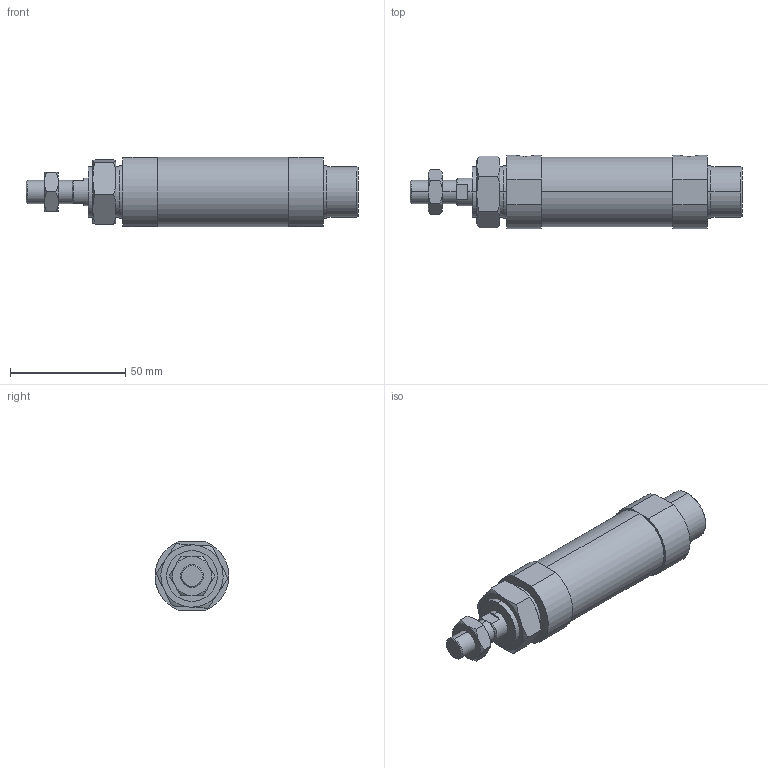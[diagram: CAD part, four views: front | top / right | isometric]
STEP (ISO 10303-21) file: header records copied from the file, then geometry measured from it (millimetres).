
FILE_DESCRIPTION (( 'STEP AP203' ), '1' );
FILE_NAME ('J#2-25-25-N.STEP', '2016-03-08T07:09:56', ( '' ), ( '' ), 'SwSTEP 2.0', 'SolidWorks 2014', '' );
FILE_SCHEMA (( 'CONFIG_CONTROL_DESIGN' ));
Length unit declared in the file: millimetre
Products named in the file (4): J#2-25-25-N; J#2-25-25
Assembly tree (3 placements, depth 2):
  J#2-25-25-N
    J#2-25-25
    (unnamed)
    (unnamed)
Bounding box: 144 x 32 x 30 mm (x, y, z)
Volume: 79298 mm3; surface area: 17298.6 mm2
Topology: 3 solids, 3 shells, 97 faces, 214 edges, 126 vertices
Faces by surface type: plane 37, cylinder 26, torus 24, cone 10
Entity records: 3360 total; most frequent: CARTESIAN_POINT 879, DIRECTION 442, ORIENTED_EDGE 420, EDGE_CURVE 210, AXIS2_PLACEMENT_3D 185, VERTEX_POINT 126, EDGE_LOOP 108, ADVANCED_FACE 97
